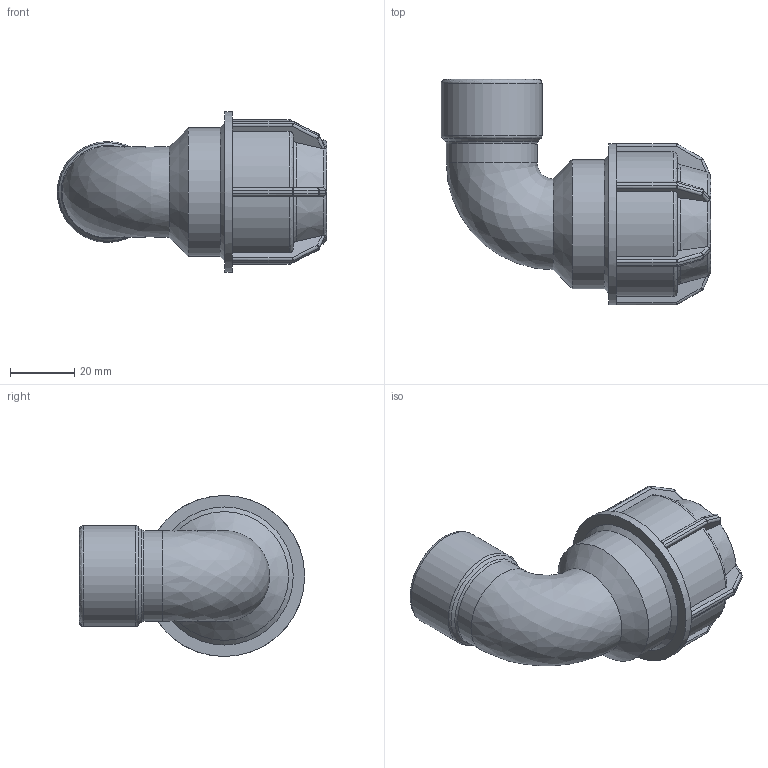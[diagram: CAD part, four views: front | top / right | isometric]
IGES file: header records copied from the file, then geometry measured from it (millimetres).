
Global section: file name: 141500025007.ipt; native system: Autodesk Inventor 2015; preprocessor: unknown; author: KIM; date: 20180409.131146; units: millimetre
Bounding box: 83.68 x 70 x 50 mm (x, y, z)
Volume: 60133.4 mm3; surface area: 22538.3 mm2
Topology: 1 solids, 1 shells, 214 faces, 519 edges, 304 vertices
Faces by surface type: plane 99, cylinder 58, revolution 24, sphere 24, cone 9
Full cylindrical faces by diameter (mm): 28.217 x1, 31.352 x1, 40 x1, 50 x1
